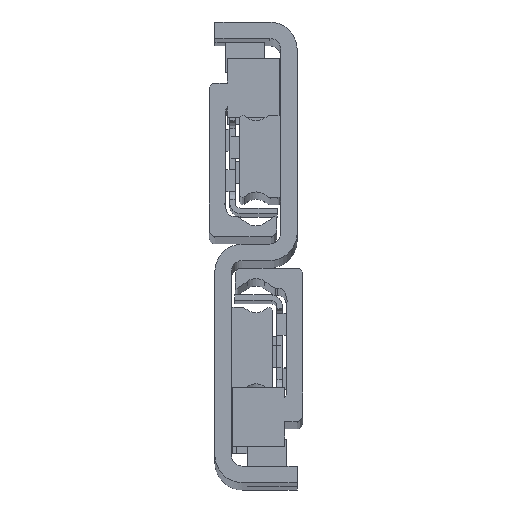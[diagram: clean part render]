
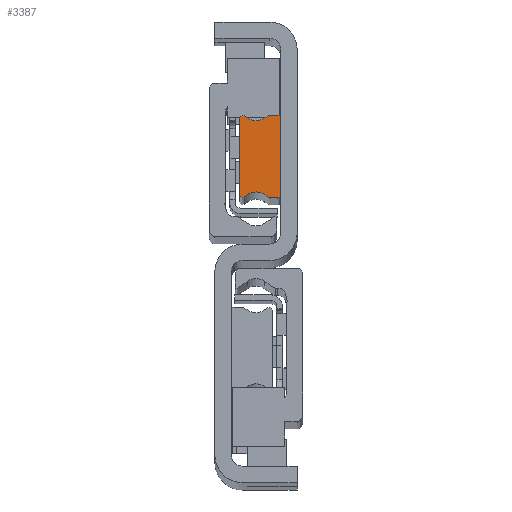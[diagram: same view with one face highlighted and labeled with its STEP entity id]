
A CAD part, top view. The second image highlights one B-rep face of the part: STEP entity #3387.
In plain terms, the highlighted planar face has unit normal (0, 0, 1) as drawn and (0, 0, -1) by its records, which use the part's own axes.
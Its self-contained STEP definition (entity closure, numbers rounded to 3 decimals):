
#43 = ORIENTED_EDGE ( 'NONE', *, *, #12682, .F. ) ;
#261 = DIRECTION ( 'NONE',  ( 0., 0., 1. ) ) ;
#342 = VERTEX_POINT ( 'NONE', #7198 ) ;
#457 = VERTEX_POINT ( 'NONE', #7369 ) ;
#617 = DIRECTION ( 'NONE',  ( 0., 0., 1. ) ) ;
#736 = EDGE_CURVE ( 'NONE', #11413, #12459, #4726, .T. ) ;
#752 = CARTESIAN_POINT ( 'NONE',  ( 7.5, 6.977, 0. ) ) ;
#803 = CARTESIAN_POINT ( 'NONE',  ( 6.093, 6.997, 0. ) ) ;
#839 = EDGE_CURVE ( 'NONE', #12459, #5643, #1770, .T. ) ;
#1096 = AXIS2_PLACEMENT_3D ( 'NONE', #9654, #617, #2686 ) ;
#1163 = CIRCLE ( 'NONE', #9469, 1. ) ;
#1172 = DIRECTION ( 'NONE',  ( -1., 0., 0. ) ) ;
#1228 = CARTESIAN_POINT ( 'NONE',  ( 6.977, 6.977, 0. ) ) ;
#1370 = ORIENTED_EDGE ( 'NONE', *, *, #8700, .F. ) ;
#1480 = DIRECTION ( 'NONE',  ( 1., 0., 0. ) ) ;
#1526 = AXIS2_PLACEMENT_3D ( 'NONE', #12298, #12422, #1480 ) ;
#1658 = ORIENTED_EDGE ( 'NONE', *, *, #3972, .F. ) ;
#1760 = CARTESIAN_POINT ( 'NONE',  ( 0., 7., 0. ) ) ;
#1770 = CIRCLE ( 'NONE', #2786, 0.5 ) ;
#1778 = CARTESIAN_POINT ( 'NONE',  ( 1.873, 7.5, 0. ) ) ;
#1813 = CARTESIAN_POINT ( 'NONE',  ( 2.907, -6.997, 0. ) ) ;
#1887 = AXIS2_PLACEMENT_3D ( 'NONE', #8844, #10659, #6922 ) ;
#2002 = CARTESIAN_POINT ( 'NONE',  ( 1.873, -6.5, 0. ) ) ;
#2169 = AXIS2_PLACEMENT_3D ( 'NONE', #3704, #6691, #4740 ) ;
#2250 = CARTESIAN_POINT ( 'NONE',  ( 0.5, -7., 0. ) ) ;
#2394 = VERTEX_POINT ( 'NONE', #11177 ) ;
#2591 = VECTOR ( 'NONE', #7870, 1000. ) ;
#2686 = DIRECTION ( 'NONE',  ( -1., 0., 0. ) ) ;
#2786 = AXIS2_PLACEMENT_3D ( 'NONE', #6044, #3018, #3945 ) ;
#2969 = VERTEX_POINT ( 'NONE', #1813 ) ;
#2998 = EDGE_CURVE ( 'NONE', #5643, #3810, #8194, .T. ) ;
#3018 = DIRECTION ( 'NONE',  ( 0., 0., 1. ) ) ;
#3037 = VECTOR ( 'NONE', #6075, 1000. ) ;
#3081 = CARTESIAN_POINT ( 'NONE',  ( 1.873, -7.5, 0. ) ) ;
#3107 = VERTEX_POINT ( 'NONE', #9789 ) ;
#3128 = ORIENTED_EDGE ( 'NONE', *, *, #9460, .F. ) ;
#3151 = DIRECTION ( 'NONE',  ( -0.819, 0.574, 0. ) ) ;
#3180 = EDGE_CURVE ( 'NONE', #342, #9774, #1163, .T. ) ;
#3374 = ORIENTED_EDGE ( 'NONE', *, *, #4674, .F. ) ;
#3387 = ADVANCED_FACE ( 'NONE', ( #8350 ), #12625, .T. ) ;
#3388 = EDGE_CURVE ( 'NONE', #9774, #2969, #7874, .T. ) ;
#3413 = ORIENTED_EDGE ( 'NONE', *, *, #736, .F. ) ;
#3432 = EDGE_CURVE ( 'NONE', #10378, #12672, #4750, .T. ) ;
#3480 = VECTOR ( 'NONE', #7728, 1000. ) ;
#3646 = DIRECTION ( 'NONE',  ( 0., 0., 1. ) ) ;
#3704 = CARTESIAN_POINT ( 'NONE',  ( 6.977, 6.977, 0. ) ) ;
#3784 = CARTESIAN_POINT ( 'NONE',  ( 6.677, -7.405, 0. ) ) ;
#3810 = VERTEX_POINT ( 'NONE', #6335 ) ;
#3876 = EDGE_CURVE ( 'NONE', #12672, #8839, #12453, .T. ) ;
#3945 = DIRECTION ( 'NONE',  ( -1., 0., 0. ) ) ;
#3972 = EDGE_CURVE ( 'NONE', #12823, #11413, #5534, .T. ) ;
#4042 = CARTESIAN_POINT ( 'NONE',  ( 2.446, 7.319, 0. ) ) ;
#4574 = DIRECTION ( 'NONE',  ( -1., 0., 0. ) ) ;
#4654 = DIRECTION ( 'NONE',  ( 0., -1., 0. ) ) ;
#4674 = EDGE_CURVE ( 'NONE', #5272, #342, #8326, .T. ) ;
#4726 = LINE ( 'NONE', #9815, #12285 ) ;
#4740 = DIRECTION ( 'NONE',  ( -1., 0., 0. ) ) ;
#4750 = LINE ( 'NONE', #9758, #10309 ) ;
#4800 = DIRECTION ( 'NONE',  ( -1., 0., 0. ) ) ;
#4913 = DIRECTION ( 'NONE',  ( -0.819, -0.574, 0. ) ) ;
#4998 = CARTESIAN_POINT ( 'NONE',  ( 0.5, -7.5, 0. ) ) ;
#5174 = DIRECTION ( 'NONE',  ( 0., 0., 1. ) ) ;
#5272 = VERTEX_POINT ( 'NONE', #4998 ) ;
#5338 = ORIENTED_EDGE ( 'NONE', *, *, #10518, .F. ) ;
#5511 = LINE ( 'NONE', #752, #3480 ) ;
#5534 = CIRCLE ( 'NONE', #1096, 1. ) ;
#5643 = VERTEX_POINT ( 'NONE', #1760 ) ;
#5905 = ORIENTED_EDGE ( 'NONE', *, *, #839, .F. ) ;
#6044 = CARTESIAN_POINT ( 'NONE',  ( 0.5, 7., 0. ) ) ;
#6075 = DIRECTION ( 'NONE',  ( 1., 0., 0. ) ) ;
#6335 = CARTESIAN_POINT ( 'NONE',  ( 0., -7., 0. ) ) ;
#6429 = CARTESIAN_POINT ( 'NONE',  ( 0.5, 7.5, 0. ) ) ;
#6555 = CIRCLE ( 'NONE', #10406, 0.5 ) ;
#6650 = EDGE_LOOP ( 'NONE', ( #10021, #9822, #12662, #11992, #1370, #9433, #12017, #3374, #5338, #11528, #5905, #3413, #1658, #3128, #9808, #43 ) ) ;
#6691 = DIRECTION ( 'NONE',  ( 0., 0., -1. ) ) ;
#6732 = CARTESIAN_POINT ( 'NONE',  ( 2.907, -6.997, 0. ) ) ;
#6922 = DIRECTION ( 'NONE',  ( 1., 0., 0. ) ) ;
#7100 = CARTESIAN_POINT ( 'NONE',  ( 2.446, 7.319, 0. ) ) ;
#7107 = VECTOR ( 'NONE', #4654, 1000. ) ;
#7198 = CARTESIAN_POINT ( 'NONE',  ( 1.873, -7.5, 0. ) ) ;
#7215 = AXIS2_PLACEMENT_3D ( 'NONE', #1228, #5174, #8161 ) ;
#7369 = CARTESIAN_POINT ( 'NONE',  ( 2.907, 6.997, 0. ) ) ;
#7611 = VECTOR ( 'NONE', #4913, 1000. ) ;
#7728 = DIRECTION ( 'NONE',  ( 0., 1., 0. ) ) ;
#7870 = DIRECTION ( 'NONE',  ( 0.819, 0.574, 0. ) ) ;
#7874 = LINE ( 'NONE', #6732, #2591 ) ;
#7938 = CIRCLE ( 'NONE', #7215, 0.523 ) ;
#8161 = DIRECTION ( 'NONE',  ( -1., 0., 0. ) ) ;
#8194 = LINE ( 'NONE', #11701, #7107 ) ;
#8283 = DIRECTION ( 'NONE',  ( -1., 0., 0. ) ) ;
#8326 = LINE ( 'NONE', #3081, #3037 ) ;
#8350 = FACE_OUTER_BOUND ( 'NONE', #6650, .T. ) ;
#8700 = EDGE_CURVE ( 'NONE', #2969, #10378, #11875, .T. ) ;
#8839 = VERTEX_POINT ( 'NONE', #9986 ) ;
#8844 = CARTESIAN_POINT ( 'NONE',  ( 4.5, -9.272, 0. ) ) ;
#9433 = ORIENTED_EDGE ( 'NONE', *, *, #3388, .F. ) ;
#9460 = EDGE_CURVE ( 'NONE', #457, #12823, #11206, .T. ) ;
#9469 = AXIS2_PLACEMENT_3D ( 'NONE', #2002, #261, #1172 ) ;
#9625 = EDGE_CURVE ( 'NONE', #8839, #11437, #5511, .T. ) ;
#9630 = DIRECTION ( 'NONE',  ( 0.819, -0.574, 0. ) ) ;
#9654 = CARTESIAN_POINT ( 'NONE',  ( 1.873, 6.5, 0. ) ) ;
#9687 = CARTESIAN_POINT ( 'NONE',  ( 6.093, -6.997, 0. ) ) ;
#9758 = CARTESIAN_POINT ( 'NONE',  ( 6.677, -7.405, 0. ) ) ;
#9774 = VERTEX_POINT ( 'NONE', #11879 ) ;
#9789 = CARTESIAN_POINT ( 'NONE',  ( 6.093, 6.997, 0. ) ) ;
#9808 = ORIENTED_EDGE ( 'NONE', *, *, #10566, .F. ) ;
#9815 = CARTESIAN_POINT ( 'NONE',  ( 0.5, 7.5, 0. ) ) ;
#9822 = ORIENTED_EDGE ( 'NONE', *, *, #9625, .F. ) ;
#9838 = VECTOR ( 'NONE', #3151, 1000. ) ;
#9986 = CARTESIAN_POINT ( 'NONE',  ( 7.5, -6.977, 0. ) ) ;
#10021 = ORIENTED_EDGE ( 'NONE', *, *, #11613, .F. ) ;
#10039 = AXIS2_PLACEMENT_3D ( 'NONE', #12482, #3646, #4574 ) ;
#10217 = LINE ( 'NONE', #803, #7611 ) ;
#10248 = CIRCLE ( 'NONE', #1526, 2.778 ) ;
#10309 = VECTOR ( 'NONE', #9630, 1000. ) ;
#10378 = VERTEX_POINT ( 'NONE', #9687 ) ;
#10406 = AXIS2_PLACEMENT_3D ( 'NONE', #2250, #11176, #8283 ) ;
#10518 = EDGE_CURVE ( 'NONE', #3810, #5272, #6555, .T. ) ;
#10566 = EDGE_CURVE ( 'NONE', #3107, #457, #10248, .T. ) ;
#10659 = DIRECTION ( 'NONE',  ( 0., 0., -1. ) ) ;
#11176 = DIRECTION ( 'NONE',  ( 0., 0., 1. ) ) ;
#11177 = CARTESIAN_POINT ( 'NONE',  ( 6.677, 7.405, 0. ) ) ;
#11206 = LINE ( 'NONE', #7100, #9838 ) ;
#11413 = VERTEX_POINT ( 'NONE', #1778 ) ;
#11437 = VERTEX_POINT ( 'NONE', #12540 ) ;
#11528 = ORIENTED_EDGE ( 'NONE', *, *, #2998, .F. ) ;
#11613 = EDGE_CURVE ( 'NONE', #11437, #2394, #7938, .T. ) ;
#11701 = CARTESIAN_POINT ( 'NONE',  ( 0., -7., 0. ) ) ;
#11875 = CIRCLE ( 'NONE', #1887, 2.778 ) ;
#11879 = CARTESIAN_POINT ( 'NONE',  ( 2.446, -7.319, 0. ) ) ;
#11992 = ORIENTED_EDGE ( 'NONE', *, *, #3432, .F. ) ;
#12017 = ORIENTED_EDGE ( 'NONE', *, *, #3180, .F. ) ;
#12285 = VECTOR ( 'NONE', #4800, 1000. ) ;
#12298 = CARTESIAN_POINT ( 'NONE',  ( 4.5, 9.272, 0. ) ) ;
#12422 = DIRECTION ( 'NONE',  ( 0., 0., -1. ) ) ;
#12453 = CIRCLE ( 'NONE', #10039, 0.523 ) ;
#12459 = VERTEX_POINT ( 'NONE', #6429 ) ;
#12482 = CARTESIAN_POINT ( 'NONE',  ( 6.977, -6.977, 0. ) ) ;
#12540 = CARTESIAN_POINT ( 'NONE',  ( 7.5, 6.977, 0. ) ) ;
#12625 = PLANE ( 'NONE',  #2169 ) ;
#12662 = ORIENTED_EDGE ( 'NONE', *, *, #3876, .F. ) ;
#12672 = VERTEX_POINT ( 'NONE', #3784 ) ;
#12682 = EDGE_CURVE ( 'NONE', #2394, #3107, #10217, .T. ) ;
#12823 = VERTEX_POINT ( 'NONE', #4042 ) ;
